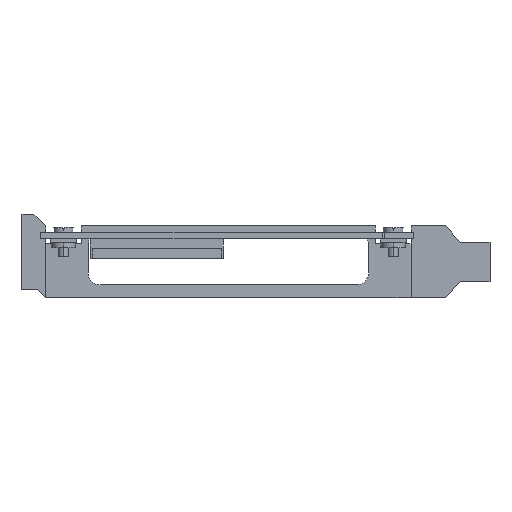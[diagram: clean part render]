
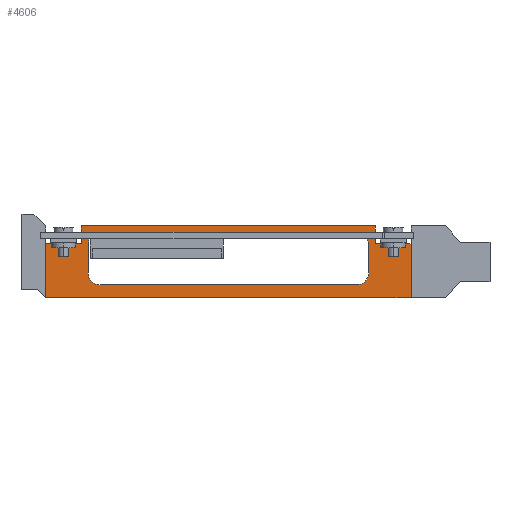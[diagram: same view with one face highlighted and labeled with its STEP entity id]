
A CAD part, left-side view. The second image highlights one B-rep face of the part: STEP entity #4606.
In plain terms, the highlighted planar face has unit normal (-1, 0, 0.001).
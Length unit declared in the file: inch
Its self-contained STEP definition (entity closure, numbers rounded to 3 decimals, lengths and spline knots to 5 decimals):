
#15 = AXIS2_PLACEMENT_3D ( 'NONE', #2117, #4996, #1458 ) ;
#87 = DIRECTION ( 'NONE',  ( 1., 0., -0.001 ) ) ;
#140 = CARTESIAN_POINT ( 'NONE',  ( 3.34995, -2.02, -0.04962 ) ) ;
#305 = EDGE_CURVE ( 'NONE', #3573, #3229, #5330, .T. ) ;
#421 = LINE ( 'NONE', #3890, #4494 ) ;
#486 = PLANE ( 'NONE',  #15 ) ;
#489 = VERTEX_POINT ( 'NONE', #7596 ) ;
#569 = VERTEX_POINT ( 'NONE', #140 ) ;
#614 = LINE ( 'NONE', #4672, #3040 ) ;
#702 = ORIENTED_EDGE ( 'NONE', *, *, #2961, .T. ) ;
#743 = ORIENTED_EDGE ( 'NONE', *, *, #6026, .T. ) ;
#884 = EDGE_CURVE ( 'NONE', #3229, #7789, #4184, .T. ) ;
#997 = EDGE_LOOP ( 'NONE', ( #4994, #6984, #5710, #8273, #8871, #2860, #8463, #2122 ) ) ;
#1057 = CARTESIAN_POINT ( 'NONE',  ( 3.34943, 1.68, -0.59962 ) ) ;
#1089 = VERTEX_POINT ( 'NONE', #2721 ) ;
#1139 = VERTEX_POINT ( 'NONE', #2374 ) ;
#1143 = AXIS2_PLACEMENT_3D ( 'NONE', #5301, #7543, #3963 ) ;
#1174 = VERTEX_POINT ( 'NONE', #8519 ) ;
#1200 = CARTESIAN_POINT ( 'NONE',  ( 3.34995, -1.47, -0.05662 ) ) ;
#1259 = VECTOR ( 'NONE', #4301, 39.37008 ) ;
#1327 = VERTEX_POINT ( 'NONE', #1966 ) ;
#1345 = DIRECTION ( 'NONE',  ( -0.001, 0., -1. ) ) ;
#1393 = ORIENTED_EDGE ( 'NONE', *, *, #2682, .F. ) ;
#1406 = ORIENTED_EDGE ( 'NONE', *, *, #4142, .T. ) ;
#1458 = DIRECTION ( 'NONE',  ( 0.001, 0., 1. ) ) ;
#1556 = DIRECTION ( 'NONE',  ( 0.001, 0., 1. ) ) ;
#1742 = LINE ( 'NONE', #7285, #4505 ) ;
#1752 = LINE ( 'NONE', #2343, #4186 ) ;
#1957 = VERTEX_POINT ( 'NONE', #6014 ) ;
#1962 = DIRECTION ( 'NONE',  ( 1., 0., -0.001 ) ) ;
#1966 = CARTESIAN_POINT ( 'NONE',  ( 3.34943, -2.02, -0.59962 ) ) ;
#1967 = EDGE_CURVE ( 'NONE', #1957, #1174, #1742, .T. ) ;
#1975 = EDGE_CURVE ( 'NONE', #3896, #3701, #2619, .T. ) ;
#2012 = CARTESIAN_POINT ( 'NONE',  ( 3.35006, -1.47, 0.06338 ) ) ;
#2029 = EDGE_CURVE ( 'NONE', #7789, #1139, #8186, .T. ) ;
#2094 = CARTESIAN_POINT ( 'NONE',  ( 3.34995, 1.68, -0.04962 ) ) ;
#2095 = DIRECTION ( 'NONE',  ( 0.001, 0., 1. ) ) ;
#2117 = CARTESIAN_POINT ( 'NONE',  ( 3.35012, 1.68, 0.13038 ) ) ;
#2122 = ORIENTED_EDGE ( 'NONE', *, *, #3770, .T. ) ;
#2225 = LINE ( 'NONE', #5015, #7136 ) ;
#2341 = CARTESIAN_POINT ( 'NONE',  ( 3.34943, 1.68, -0.59962 ) ) ;
#2343 = CARTESIAN_POINT ( 'NONE',  ( 3.34995, 1.68, -0.04962 ) ) ;
#2374 = CARTESIAN_POINT ( 'NONE',  ( 3.34995, 1.25, -0.05662 ) ) ;
#2499 = VERTEX_POINT ( 'NONE', #5084 ) ;
#2564 = CARTESIAN_POINT ( 'NONE',  ( 3.35012, 1.68, 0.13038 ) ) ;
#2619 = LINE ( 'NONE', #2564, #7959 ) ;
#2682 = EDGE_CURVE ( 'NONE', #569, #1327, #3891, .T. ) ;
#2721 = CARTESIAN_POINT ( 'NONE',  ( 3.34995, -1.66, -0.04962 ) ) ;
#2730 = CIRCLE ( 'NONE', #7801, 0.12 ) ;
#2760 = DIRECTION ( 'NONE',  ( 0., 1., 0. ) ) ;
#2773 = VECTOR ( 'NONE', #8609, 39.37008 ) ;
#2860 = ORIENTED_EDGE ( 'NONE', *, *, #4399, .T. ) ;
#2881 = DIRECTION ( 'NONE',  ( 0.001, 0., 1. ) ) ;
#2891 = CIRCLE ( 'NONE', #7928, 0.12 ) ;
#2961 = EDGE_CURVE ( 'NONE', #1957, #4831, #7047, .T. ) ;
#3018 = CARTESIAN_POINT ( 'NONE',  ( 3.34956, -1.47, -0.46662 ) ) ;
#3040 = VECTOR ( 'NONE', #1345, 39.37008 ) ;
#3229 = VERTEX_POINT ( 'NONE', #4856 ) ;
#3301 = ORIENTED_EDGE ( 'NONE', *, *, #8130, .T. ) ;
#3441 = CARTESIAN_POINT ( 'NONE',  ( 3.34967, 1.25, -0.34662 ) ) ;
#3445 = VECTOR ( 'NONE', #4748, 39.37008 ) ;
#3573 = VERTEX_POINT ( 'NONE', #3018 ) ;
#3701 = VERTEX_POINT ( 'NONE', #1057 ) ;
#3770 = EDGE_CURVE ( 'NONE', #8569, #6062, #2730, .T. ) ;
#3789 = ORIENTED_EDGE ( 'NONE', *, *, #1975, .T. ) ;
#3890 = CARTESIAN_POINT ( 'NONE',  ( 3.35006, 1.25, 0.06338 ) ) ;
#3891 = LINE ( 'NONE', #8824, #5168 ) ;
#3896 = VERTEX_POINT ( 'NONE', #2094 ) ;
#3963 = DIRECTION ( 'NONE',  ( 0.001, 0., 1. ) ) ;
#4125 = CARTESIAN_POINT ( 'NONE',  ( 3.34956, 1.25, -0.46662 ) ) ;
#4142 = EDGE_CURVE ( 'NONE', #4831, #3896, #1752, .T. ) ;
#4184 = CIRCLE ( 'NONE', #5191, 0.12 ) ;
#4186 = VECTOR ( 'NONE', #6480, 39.37008 ) ;
#4301 = DIRECTION ( 'NONE',  ( -0.001, 0., -1. ) ) ;
#4399 = EDGE_CURVE ( 'NONE', #1139, #2499, #2891, .T. ) ;
#4494 = VECTOR ( 'NONE', #5970, 39.37008 ) ;
#4505 = VECTOR ( 'NONE', #8777, 39.37008 ) ;
#4591 = CARTESIAN_POINT ( 'NONE',  ( 3.34995, 1.13, -0.05662 ) ) ;
#4606 = ADVANCED_FACE ( 'NONE', ( #7401, #6724 ), #486, .F. ) ;
#4662 = CARTESIAN_POINT ( 'NONE',  ( 3.34995, -1.59, -0.05662 ) ) ;
#4672 = CARTESIAN_POINT ( 'NONE',  ( 3.34956, -1.59, -0.46662 ) ) ;
#4748 = DIRECTION ( 'NONE',  ( 0., 1., 0. ) ) ;
#4831 = VERTEX_POINT ( 'NONE', #8891 ) ;
#4856 = CARTESIAN_POINT ( 'NONE',  ( 3.34956, 1.13, -0.46662 ) ) ;
#4960 = CARTESIAN_POINT ( 'NONE',  ( 3.35024, 1.32, 0.25038 ) ) ;
#4994 = ORIENTED_EDGE ( 'NONE', *, *, #7253, .T. ) ;
#4996 = DIRECTION ( 'NONE',  ( 1., 0., -0.001 ) ) ;
#5000 = VECTOR ( 'NONE', #2760, 39.37008 ) ;
#5015 = CARTESIAN_POINT ( 'NONE',  ( 3.35012, -1.66, 0.13038 ) ) ;
#5084 = CARTESIAN_POINT ( 'NONE',  ( 3.35006, 1.13, 0.06338 ) ) ;
#5143 = DIRECTION ( 'NONE',  ( 1., 0., -0.001 ) ) ;
#5168 = VECTOR ( 'NONE', #6646, 39.37008 ) ;
#5186 = ORIENTED_EDGE ( 'NONE', *, *, #8514, .T. ) ;
#5191 = AXIS2_PLACEMENT_3D ( 'NONE', #5499, #87, #2881 ) ;
#5301 = CARTESIAN_POINT ( 'NONE',  ( 3.34967, -1.47, -0.34662 ) ) ;
#5330 = LINE ( 'NONE', #8737, #3445 ) ;
#5499 = CARTESIAN_POINT ( 'NONE',  ( 3.34967, 1.13, -0.34662 ) ) ;
#5710 = ORIENTED_EDGE ( 'NONE', *, *, #305, .T. ) ;
#5970 = DIRECTION ( 'NONE',  ( 0., -1., 0. ) ) ;
#6014 = CARTESIAN_POINT ( 'NONE',  ( 3.35012, 1.32, 0.13038 ) ) ;
#6026 = EDGE_CURVE ( 'NONE', #1089, #1174, #2225, .T. ) ;
#6062 = VERTEX_POINT ( 'NONE', #4662 ) ;
#6232 = VECTOR ( 'NONE', #2095, 39.37008 ) ;
#6330 = CARTESIAN_POINT ( 'NONE',  ( 3.34995, -1.66, -0.04962 ) ) ;
#6477 = LINE ( 'NONE', #2341, #2773 ) ;
#6480 = DIRECTION ( 'NONE',  ( 0., 1., 0. ) ) ;
#6646 = DIRECTION ( 'NONE',  ( -0.001, 0., -1. ) ) ;
#6724 = FACE_OUTER_BOUND ( 'NONE', #8132, .T. ) ;
#6984 = ORIENTED_EDGE ( 'NONE', *, *, #7963, .T. ) ;
#7047 = LINE ( 'NONE', #4960, #1259 ) ;
#7102 = CIRCLE ( 'NONE', #1143, 0.12 ) ;
#7136 = VECTOR ( 'NONE', #1556, 39.37008 ) ;
#7253 = EDGE_CURVE ( 'NONE', #6062, #489, #614, .T. ) ;
#7285 = CARTESIAN_POINT ( 'NONE',  ( 3.35012, 1.68, 0.13038 ) ) ;
#7324 = DIRECTION ( 'NONE',  ( 0.001, 0., 1. ) ) ;
#7401 = FACE_BOUND ( 'NONE', #997, .T. ) ;
#7541 = EDGE_CURVE ( 'NONE', #2499, #8569, #421, .T. ) ;
#7543 = DIRECTION ( 'NONE',  ( 1., 0., -0.001 ) ) ;
#7596 = CARTESIAN_POINT ( 'NONE',  ( 3.34967, -1.59, -0.34662 ) ) ;
#7789 = VERTEX_POINT ( 'NONE', #3441 ) ;
#7801 = AXIS2_PLACEMENT_3D ( 'NONE', #1200, #1962, #7324 ) ;
#7891 = DIRECTION ( 'NONE',  ( 0.001, 0., 1. ) ) ;
#7928 = AXIS2_PLACEMENT_3D ( 'NONE', #4591, #5143, #7891 ) ;
#7959 = VECTOR ( 'NONE', #8103, 39.37008 ) ;
#7963 = EDGE_CURVE ( 'NONE', #489, #3573, #7102, .T. ) ;
#8103 = DIRECTION ( 'NONE',  ( -0.001, 0., -1. ) ) ;
#8130 = EDGE_CURVE ( 'NONE', #3701, #1327, #6477, .T. ) ;
#8132 = EDGE_LOOP ( 'NONE', ( #702, #1406, #3789, #3301, #1393, #5186, #743, #8351 ) ) ;
#8186 = LINE ( 'NONE', #4125, #6232 ) ;
#8273 = ORIENTED_EDGE ( 'NONE', *, *, #884, .T. ) ;
#8351 = ORIENTED_EDGE ( 'NONE', *, *, #1967, .F. ) ;
#8414 = LINE ( 'NONE', #6330, #5000 ) ;
#8463 = ORIENTED_EDGE ( 'NONE', *, *, #7541, .T. ) ;
#8514 = EDGE_CURVE ( 'NONE', #569, #1089, #8414, .T. ) ;
#8519 = CARTESIAN_POINT ( 'NONE',  ( 3.35012, -1.66, 0.13038 ) ) ;
#8569 = VERTEX_POINT ( 'NONE', #2012 ) ;
#8609 = DIRECTION ( 'NONE',  ( 0., -1., 0. ) ) ;
#8737 = CARTESIAN_POINT ( 'NONE',  ( 3.34956, 1.25, -0.46662 ) ) ;
#8777 = DIRECTION ( 'NONE',  ( 0., -1., 0. ) ) ;
#8824 = CARTESIAN_POINT ( 'NONE',  ( 3.35012, -2.02, 0.13038 ) ) ;
#8871 = ORIENTED_EDGE ( 'NONE', *, *, #2029, .T. ) ;
#8891 = CARTESIAN_POINT ( 'NONE',  ( 3.34995, 1.32, -0.04962 ) ) ;
